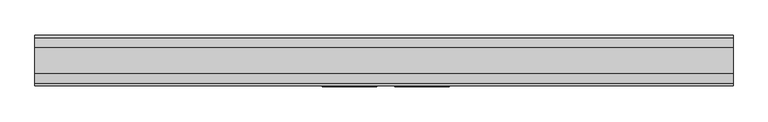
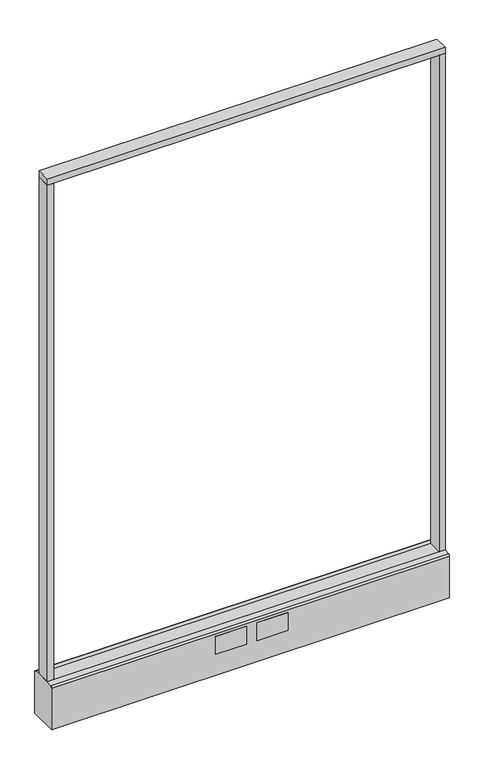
"""IFC4 building model written with IfcOpenShell, lengths in millimetres: furniture geometry."""

import ifcopenshell
import ifcopenshell.guid

model = None  # the IFC model being written
_history = None  # IfcOwnerHistory: only IFC2X3 demands one
_inside = {}  # id of a spatial element -> (the spatial element, [elements in it])
_under = {}  # id of a project, library or spatial element -> (it, [spatial elements below it])
_declared = {}  # id of a project -> (the project, [libraries it declares])
_typed = {}  # id of a type object -> (the type object, [elements of that type])
_made_of = {}  # id of a material, layer set ... -> (it, [elements and type objects made of it])


def new_model(schema):
    """Start an empty IFC model of exactly this schema.

    Asked for "IFC4X3", IfcOpenShell would pick the latest addendum, in which some entities
    have other attributes; the version numbers below select the first issue.
    IFC2X3 requires an IfcOwnerHistory on every rooted entity: one is made here for all.
    """
    global model, _history
    if schema == "IFC4X3":
        model = ifcopenshell.file(schema_version=(4, 3, 0, 0))
    else:
        model = ifcopenshell.file(schema=schema)
    _inside.clear()
    _under.clear()
    _declared.clear()
    _typed.clear()
    _made_of.clear()
    _history = None
    if model.schema == "IFC2X3":
        org = make("IfcOrganization", Name="unknown")
        user = make(
            "IfcPersonAndOrganization",
            ThePerson=make("IfcPerson", FamilyName="unknown"),
            TheOrganization=org,
        )
        app = make(
            "IfcApplication",
            ApplicationDeveloper=org,
            Version="unknown",
            ApplicationFullName="unknown",
            ApplicationIdentifier="unknown",
        )
        _history = make(
            "IfcOwnerHistory",
            OwningUser=user,
            OwningApplication=app,
            ChangeAction="ADDED",
            CreationDate=0,
        )
    return model


def make(cls, **values):
    """One entity of the class cls with the attributes given. An attribute that is None is left unset."""
    return model.create_entity(
        cls, **{name: value for name, value in values.items() if value is not None}
    )


def rooted(cls, **values):
    """An entity with a GlobalId (a new one), such as an element, a storey or a relation."""
    return make(cls, GlobalId=ifcopenshell.guid.new(), OwnerHistory=_history, **values)


def si_unit(unit_type, name, prefix=None):
    """IfcSIUnit, for example si_unit("LENGTHUNIT", "METRE", prefix="MILLI")."""
    return make("IfcSIUnit", UnitType=unit_type, Prefix=prefix, Name=name)


def assignment(units):
    """IfcUnitAssignment: the units of a project."""
    return None if units is None else make("IfcUnitAssignment", Units=units)


def point(xyz):
    """IfcCartesianPoint."""
    return None if xyz is None else make("IfcCartesianPoint", Coordinates=xyz)


def direction(xyz):
    """IfcDirection."""
    return None if xyz is None else make("IfcDirection", DirectionRatios=xyz)


def frame(location, z_axis=None, x_axis=None):
    """IfcAxis2Placement3D, a coordinate frame: its origin and axes. An axis left out is left unset."""
    return make(
        "IfcAxis2Placement3D",
        Location=point(location),
        Axis=direction(z_axis),
        RefDirection=direction(x_axis),
    )


def frame_2d(location, x_axis=None):
    """IfcAxis2Placement2D, a coordinate frame in the plane: its origin and x axis."""
    return make(
        "IfcAxis2Placement2D", Location=point(location), RefDirection=direction(x_axis)
    )


def origin():
    """The frame at (0, 0, 0) with its axes left unset."""
    return frame((0.0, 0.0, 0.0))


def origin_with_axes():
    """The frame at (0, 0, 0) with the z axis (0, 0, 1) and the x axis (1, 0, 0) written out."""
    return frame((0.0, 0.0, 0.0), z_axis=(0.0, 0.0, 1.0), x_axis=(1.0, 0.0, 0.0))


def place(relative_to, where):
    """IfcLocalPlacement: puts the frame where relative to a parent placement (None: the world)."""
    return make(
        "IfcLocalPlacement", PlacementRelTo=relative_to, RelativePlacement=where
    )


def context(
    kind, dimensions, precision=None, world=None, true_north=None, identifier=None
):
    """IfcGeometricRepresentationContext, for example the 3D "Model" context."""
    return make(
        "IfcGeometricRepresentationContext",
        ContextIdentifier=identifier,
        ContextType=kind,
        CoordinateSpaceDimension=dimensions,
        Precision=precision,
        WorldCoordinateSystem=world,
        TrueNorth=true_north,
    )


def project(units=None, contexts=None):
    """IfcProject with its units and contexts."""
    return rooted(
        "IfcProject",
        Name="project",
        RepresentationContexts=contexts,
        UnitsInContext=assignment(units),
    )


def spatial(cls, under=None, at=None, **own):
    """A site, building, storey or space (cls), placed at a placement, below another one or the project."""
    s = rooted(cls, ObjectPlacement=at, **own)
    if under is not None:
        _under.setdefault(under.id(), (under, []))[1].append(s)
    return s


def polyline(points):
    """IfcPolyline through the points."""
    return make("IfcPolyline", Points=[point(p) for p in points])


def circle_curve(where, radius):
    """IfcCircle in the frame where."""
    return make("IfcCircle", Position=where, Radius=radius)


def trimmed(basis, trim1, trim2, sense, master):
    """IfcTrimmedCurve: the piece of a basis curve between two trims."""
    return make(
        "IfcTrimmedCurve",
        BasisCurve=basis,
        Trim1=trim1,
        Trim2=trim2,
        SenseAgreement=sense,
        MasterRepresentation=master,
    )


def segment(curve, same_sense, transition):
    """IfcCompositeCurveSegment."""
    return make(
        "IfcCompositeCurveSegment",
        Transition=transition,
        SameSense=same_sense,
        ParentCurve=curve,
    )


def composite_curve(segments, self_intersect=None):
    """IfcCompositeCurve: segments joined end to end."""
    return make("IfcCompositeCurve", Segments=segments, SelfIntersect=self_intersect)


def outline(outer, holes=None, kind="AREA"):
    """IfcArbitraryClosedProfileDef: a profile drawn as a closed curve; with holes, ...WithVoids."""
    if holes is None:
        return make("IfcArbitraryClosedProfileDef", ProfileType=kind, OuterCurve=outer)
    return make(
        "IfcArbitraryProfileDefWithVoids",
        ProfileType=kind,
        OuterCurve=outer,
        InnerCurves=holes,
    )


def extrude(swept, where, along, depth):
    """IfcExtrudedAreaSolid: the profile swept, set in the frame where, extruded along a direction by depth."""
    return make(
        "IfcExtrudedAreaSolid",
        SweptArea=swept,
        Position=where,
        ExtrudedDirection=direction(along),
        Depth=depth,
    )


def shape(context_of_items, identifier, shape_type, items):
    """IfcShapeRepresentation: the items that make up one representation, for example the "Body"."""
    return make(
        "IfcShapeRepresentation",
        ContextOfItems=context_of_items,
        RepresentationIdentifier=identifier,
        RepresentationType=shape_type,
        Items=items,
    )


def source(mapping_origin, context_of_items, identifier, shape_type, items):
    """IfcRepresentationMap: a shape defined once, which mapped items show again and again."""
    return make(
        "IfcRepresentationMap",
        MappingOrigin=mapping_origin,
        MappedRepresentation=shape(context_of_items, identifier, shape_type, items),
    )


def transform(
    local_origin,
    x_axis=None,
    y_axis=None,
    z_axis=None,
    scale=None,
    scale2=None,
    scale3=None,
    uniform=True,
):
    """IfcCartesianTransformationOperator3D, or its non-uniform kind. x_axis, y_axis, z_axis: its Axis1, 2, 3."""
    if uniform:
        return make(
            "IfcCartesianTransformationOperator3D",
            Axis1=direction(x_axis),
            Axis2=direction(y_axis),
            LocalOrigin=point(local_origin),
            Scale=scale,
            Axis3=direction(z_axis),
        )
    return make(
        "IfcCartesianTransformationOperator3DnonUniform",
        Axis1=direction(x_axis),
        Axis2=direction(y_axis),
        LocalOrigin=point(local_origin),
        Scale=scale,
        Axis3=direction(z_axis),
        Scale2=scale2,
        Scale3=scale3,
    )


def mapped(mapping_source, mapping_target):
    """IfcMappedItem: shows the shape of a source again, moved by a transform."""
    return make(
        "IfcMappedItem", MappingSource=mapping_source, MappingTarget=mapping_target
    )


def made_of(thing, what):
    """Note that an element or type object is made of a material, layer set ...; save() writes the relation."""
    if what is not None:
        _made_of.setdefault(what.id(), (what, []))[1].append(thing)
    return thing


def element(
    cls,
    number,
    at=None,
    inside=None,
    cuts=None,
    type_object=None,
    material=None,
    context=None,
    identifier="Body",
    shape_type=None,
    held_by="IfcProductDefinitionShape",
    body=None,
    shapes=None,
    **own,
):
    """One element of the class cls, such as IfcWall. Its Tag is "e" and its number.

    at: its placement. inside: the storey or other place that contains it. cuts: it is an
    opening in that element (IfcRelVoidsElement). A single representation is given by context,
    identifier, shape_type and body (its items); several are given by shapes. held_by: the class
    of the entity that holds the representations. save() writes the other relations.
    """
    e = rooted(cls, Tag="e%d" % number, ObjectPlacement=at, **own)
    if body is not None:
        shapes = [shape(context, identifier, shape_type, body)]
    if shapes is not None:
        e.Representation = make(held_by, Representations=shapes)
    if inside is not None:
        _inside.setdefault(inside.id(), (inside, []))[1].append(e)
    if cuts is not None:
        rooted(
            "IfcRelVoidsElement", RelatingBuildingElement=cuts, RelatedOpeningElement=e
        )
    if type_object is not None:
        _typed.setdefault(type_object.id(), (type_object, []))[1].append(e)
    return made_of(e, material)


def aggregate(whole, parts):
    """IfcRelAggregates: a whole, such as a stair, and the parts it consists of."""
    return rooted("IfcRelAggregates", RelatingObject=whole, RelatedObjects=parts)


def save(model, path):
    """Write the relations noted so far, then the file.

    IfcRelAggregates (storeys below a building ...), IfcRelContainedInSpatialStructure (elements
    in a storey), IfcRelDefinesByType, IfcRelAssociatesMaterial and IfcRelDeclares: one each for
    every whole, place, type object, material and project.
    """
    for whole, parts in _under.values():
        aggregate(whole, parts)
    for where, things in _inside.values():
        rooted(
            "IfcRelContainedInSpatialStructure",
            RelatedElements=things,
            RelatingStructure=where,
        )
    for kind, things in _typed.values():
        rooted("IfcRelDefinesByType", RelatedObjects=things, RelatingType=kind)
    for what, things in _made_of.values():
        rooted("IfcRelAssociatesMaterial", RelatedObjects=things, RelatingMaterial=what)
    for by, libraries in _declared.values():
        rooted("IfcRelDeclares", RelatingContext=by, RelatedDefinitions=libraries)
    model.write(path)


def furniture_9ef934da(model_context):
    return source(origin(), model_context, "Body", "SweptSolid", [
        extrude(outline(polyline([(609.6, -22.225), (-609.6, -22.225), (-609.6, 22.225), (609.6, 22.225), (609.6, -22.225)])), frame((0.0, 0.0, 1758.95), z_axis=(0.0, 0.0, 1.0), x_axis=(1.0, 0.0, 0.0)), (0.0, 0.0, 1.0), 19.05),
        extrude(outline(composite_curve([segment(trimmed(circle_curve(frame_2d((-533.4, 0.0)), 23.415625), [point((-556.815625, 0.0))], [point((-509.984375, 0.0))], False, "CARTESIAN"), True, "CONTINUOUS"), segment(trimmed(circle_curve(frame_2d((-533.4, 0.0)), 23.415625), [point((-509.984375, 0.0))], [point((-556.815625, 0.0))], False, "CARTESIAN"), True, "CONTINUOUS")], self_intersect=False)), origin_with_axes(), (0.0, 0.0, 1.0), 6.35),
        extrude(outline(composite_curve([segment(trimmed(circle_curve(frame_2d((533.4, 0.0)), 23.415625), [point((509.984375, 0.0))], [point((556.815625, 0.0))], False, "CARTESIAN"), True, "CONTINUOUS"), segment(trimmed(circle_curve(frame_2d((533.4, 0.0)), 23.415625), [point((556.815625, 0.0))], [point((509.984375, 0.0))], False, "CARTESIAN"), True, "CONTINUOUS")], self_intersect=False)), origin_with_axes(), (0.0, 0.0, 1.0), 6.35),
        extrude(outline(polyline([(-590.5500091, -22.225), (-609.6, -22.225), (-609.6, 22.225), (-590.5500091, 22.225), (-590.5500091, -22.225)])), frame((0.0, 0.0, 152.4), z_axis=(0.0, 0.0, 1.0), x_axis=(1.0, 0.0, 0.0)), (0.0, 0.0, 1.0), 1606.55),
        extrude(outline(polyline([(609.6, -22.225), (590.5500091, -22.225), (590.5500091, 22.225), (609.6, 22.225), (609.6, -22.225)])), frame((0.0, 0.0, 152.4), z_axis=(0.0, 0.0, 1.0), x_axis=(1.0, 0.0, 0.0)), (0.0, 0.0, 1.0), 1606.55),
        extrude(outline(composite_curve([segment(polyline([(-22.225, 152.4), (22.225, 152.4), (39.43219, 149.94183)]), True, "CONTINUOUS"), segment(trimmed(circle_curve(frame_2d((38.605678, 144.1562464)), 5.844322), [point((39.43219, 149.94183))], [point((44.45, 144.1562464))], False, "CARTESIAN"), True, "CONTINUOUS"), segment(polyline([(44.45, 144.1562464), (44.45, 9.525), (-44.4433083, 9.525), (-44.4433083, 144.1572033)]), True, "CONTINUOUS"), segment(trimmed(circle_curve(frame_2d((-38.5989863, 144.1572033)), 5.844322), [point((-44.4433083, 144.1572033))], [point((-39.4222979, 149.9432432))], False, "CARTESIAN"), True, "CONTINUOUS"), segment(polyline([(-39.4222979, 149.9432432), (-22.225, 152.4)]), True, "CONTINUOUS")], self_intersect=False)), frame((-609.6, 0.0, 0.0), z_axis=(1.0, 0.0, 0.0), x_axis=(0.0, 1.0, 0.0)), (0.0, 0.0, 1.0), 1219.2),
        extrude(outline(polyline([(114.3, -46.0375), (19.05, -46.0375), (19.05, -44.45), (114.3, -44.45), (114.3, -46.0375)])), frame((0.0, 0.0, 79.1718), z_axis=(0.0, 0.0, 1.0), x_axis=(1.0, 0.0, 0.0)), (0.0, 0.0, 1.0), 57.15),
        extrude(outline(polyline([(-12.7, -46.0375), (-107.95, -46.0375), (-107.95, -44.45), (-12.7, -44.45), (-12.7, -46.0375)])), frame((0.0, 0.0, 79.1718), z_axis=(0.0, 0.0, 1.0), x_axis=(1.0, 0.0, 0.0)), (0.0, 0.0, 1.0), 57.15),
        extrude(outline(composite_curve([segment(trimmed(circle_curve(frame_2d((-533.4, 0.0)), 5.55625), [point((-538.95625, 0.0))], [point((-527.84375, 0.0))], False, "CARTESIAN"), True, "CONTINUOUS"), segment(trimmed(circle_curve(frame_2d((-533.4, 0.0)), 5.55625), [point((-527.84375, 0.0))], [point((-538.95625, 0.0))], False, "CARTESIAN"), True, "CONTINUOUS")], self_intersect=False)), frame((0.0, 0.0, 6.35), z_axis=(0.0, 0.0, 1.0), x_axis=(1.0, 0.0, 0.0)), (0.0, 0.0, 1.0), 3.175),
        extrude(outline(composite_curve([segment(trimmed(circle_curve(frame_2d((533.4, 0.0)), 5.55625), [point((527.84375, 0.0))], [point((538.95625, 0.0))], False, "CARTESIAN"), True, "CONTINUOUS"), segment(trimmed(circle_curve(frame_2d((533.4, 0.0)), 5.55625), [point((538.95625, 0.0))], [point((527.84375, 0.0))], False, "CARTESIAN"), True, "CONTINUOUS")], self_intersect=False)), frame((0.0, 0.0, 6.35), z_axis=(0.0, 0.0, 1.0), x_axis=(1.0, 0.0, 0.0)), (0.0, 0.0, 1.0), 3.175),
    ])


if __name__ == "__main__":
    model = new_model("IFC4")
    model_context = context("Model", 3, world=origin())
    ifc_project = project(units=[si_unit("LENGTHUNIT", "METRE", prefix="MILLI")], contexts=[model_context])
    site = spatial("IfcSite", under=ifc_project)
    building = spatial("IfcBuilding", under=site)
    placement = place(None, origin())
    furniture_shape = furniture_9ef934da(model_context)
    element("IfcFurniture", 1, ObjectType="HermanMiller_Ethospace_E1109_Frame : 70\"H x 48\"W-H", at=placement, inside=building, context=model_context, shape_type="MappedRepresentation", body=[
        mapped(furniture_shape, transform((0.0, 0.0, 0.0), x_axis=(1.0, 0.0, 0.0), y_axis=(0.0, 1.0, 0.0), z_axis=(0.0, 0.0, 1.0))),
    ])
    save(model, "model.ifc")
